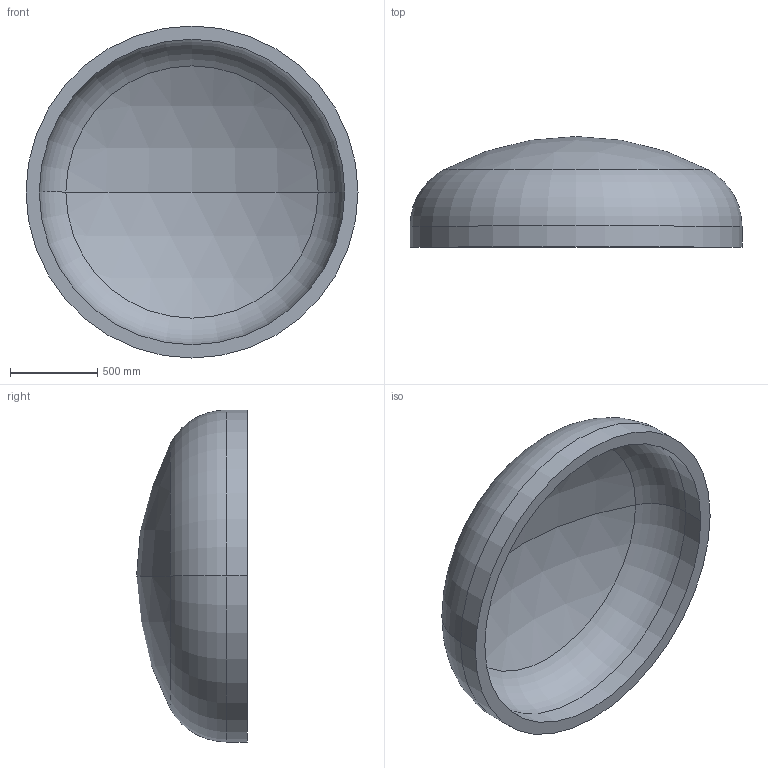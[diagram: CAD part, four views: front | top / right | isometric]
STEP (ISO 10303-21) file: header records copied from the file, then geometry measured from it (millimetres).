
FILE_DESCRIPTION (( 'STEP AP203' ), '1' );
FILE_NAME ('DIN 28013 Korbbogenform_-_Boden DIN 28013 - 1900 x 120 - I - s=76.step', '2016-07-01T13:19:16', ( '' ), ( '' ), 'SwSTEP 2.0', 'SolidWorks 2013', '' );
FILE_SCHEMA (( 'CONFIG_CONTROL_DESIGN' ));
Length unit declared in the file: millimetre
Products named in the file (1): DIN 28013 Korbbogenform_-_Boden DIN 28013 - 1900 x 120 - I - s=76
Bounding box: 1900 x 633.48 x 1900 mm (x, y, z)
Volume: 335115101.2 mm3; surface area: 9266413.3 mm2
Topology: 1 solids, 1 shells, 13 faces, 24 edges, 14 vertices
Faces by surface type: torus 4, cylinder 4, sphere 4, plane 1
Entity records: 407 total; most frequent: DIRECTION 72, CARTESIAN_POINT 52, ORIENTED_EDGE 48, AXIS2_PLACEMENT_3D 34, EDGE_CURVE 24, CIRCLE 20, EDGE_LOOP 14, VERTEX_POINT 14
